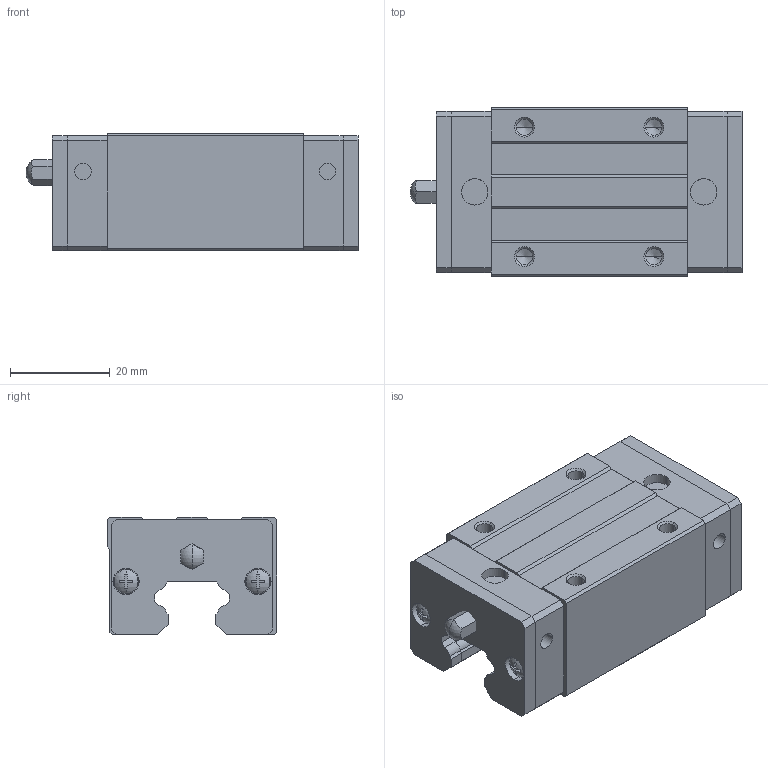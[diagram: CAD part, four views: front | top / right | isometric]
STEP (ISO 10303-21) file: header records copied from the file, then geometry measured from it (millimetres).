
FILE_DESCRIPTION(('starvars output'),'2;1');
FILE_NAME('cv20190617060828000011293.stp','06:08:28 2019/06/17',( 'Thomas Industrial Network Germany GmbH'),( 'Thomas Industrial Network Germany GmbH'),'unknown preprocess','ACIS' ,'unknown authorization');
FILE_SCHEMA(('CONFIG_CONTROL_DESIGN {UNKNOWN IMPLEMENTATION LEVEL}'));
Length unit declared in the file: millimetre
Products named in the file (10): PRODUCT_ID_1; PRODUCT_ID_2; PRODUCT_ID_3; PRODUCT_ID_4; PRODUCT_ID_5; PRODUCT_ID_6; PRODUCT_ID_7; PRODUCT_ID_8; PRODUCT_ID_9; PRODUCT_ID_10
Bounding box: 66.7 x 34 x 23.7 mm (x, y, z)
Volume: 39398.3 mm3; surface area: 15862.4 mm2
Topology: 10 solids, 10 shells, 329 faces, 837 edges, 540 vertices
Faces by surface type: plane 219, cylinder 68, cone 32, sphere 10
Entity records: 9862 total; most frequent: ORIENTED_EDGE 1658, CARTESIAN_POINT 1522, DIRECTION 1392, EDGE_CURVE 829, VECTOR 572, LINE 572, VERTEX_POINT 540, AXIS2_PLACEMENT_3D 410
